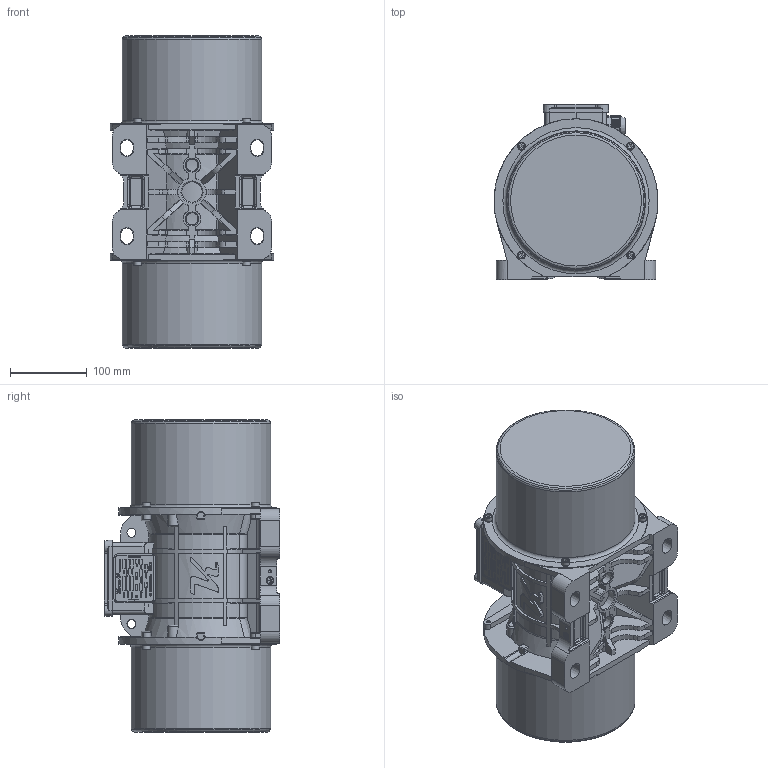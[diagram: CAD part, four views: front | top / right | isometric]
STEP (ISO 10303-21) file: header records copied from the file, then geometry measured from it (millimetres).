
FILE_DESCRIPTION(/* description */ (''),/* implementation_level */ '2;1');
FILE_NAME(/* name */ '4 NO B TAS.stp',/* time_stamp */ '2026-09-01T10:47:31+03:00',/* author */ ('PC'),/* organization */ (''),/* preprocessor_version */ 'ST-DEVELOPER v20.1',/* originating_system */ 'Autodesk Inventor 2026',/* authorisation */ '');
FILE_SCHEMA (('AUTOMOTIVE_DESIGN { 1 0 10303 214 3 1 1 }'));
Products named in the file (1): 4 NO B TAS
Bounding box: 213.97 x 228.87 x 408 mm (x, y, z)
Volume: 10113589.2 mm3; surface area: 478236.3 mm2
Topology: 9 solids, 19 shells, 4287 faces, 11651 edges, 7650 vertices
Faces by surface type: plane 2669, bspline 1052, cylinder 327, cone 154, torus 81, sphere 4
Full cylindrical faces by diameter (mm): 4.917 x8, 5 x2, 6 x8, 6.4 x8, 6.647 x6, 6.8 x8, 8.358 x1, 8.5 x4, 9.95 x1, 10 x8, 14 x1, 15 x1, 20 x1, 22 x1, 180 x1, 182 x2
Entity records: 156132 total; most frequent: CARTESIAN_POINT 51117, ORIENTED_EDGE 23252, DIRECTION 16647, EDGE_CURVE 11626, LINE 7903, VECTOR 7903, VERTEX_POINT 7652, EDGE_LOOP 4656
